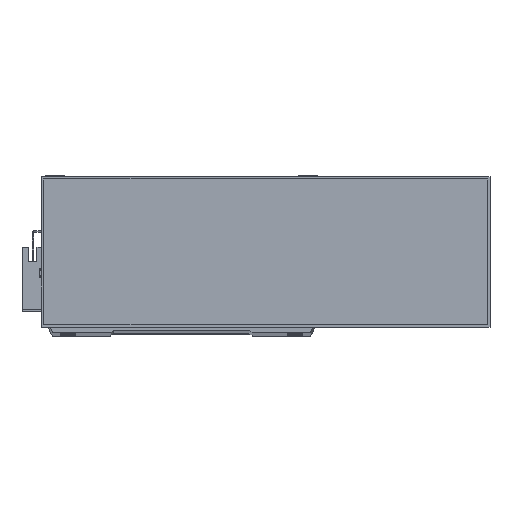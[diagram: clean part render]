
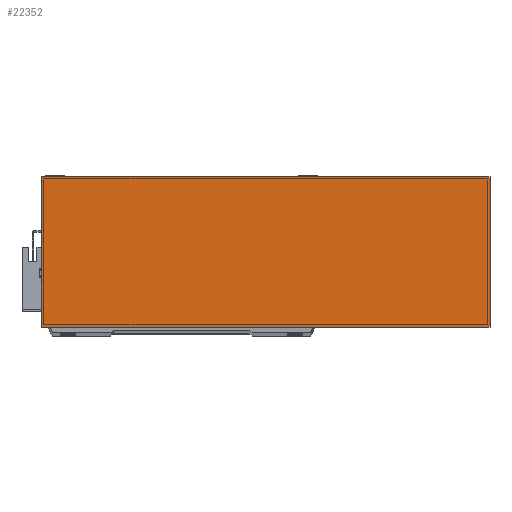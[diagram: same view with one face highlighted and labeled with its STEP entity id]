
A CAD part, top view. The second image highlights one B-rep face of the part: STEP entity #22352.
In plain terms, the highlighted planar face has unit normal (0, 0, 1).
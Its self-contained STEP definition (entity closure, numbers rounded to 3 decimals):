
#916 = CARTESIAN_POINT ( 'NONE',  ( 0., 0., 50. ) ) ;
#1520 = CARTESIAN_POINT ( 'NONE',  ( 277., 93., 50. ) ) ;
#3180 = DIRECTION ( 'NONE',  ( 1., 0., 0. ) ) ;
#3797 = FACE_OUTER_BOUND ( 'NONE', #22103, .T. ) ;
#5744 = EDGE_CURVE ( 'NONE', #6061, #21718, #21702, .T. ) ;
#6061 = VERTEX_POINT ( 'NONE', #1520 ) ;
#6570 = VECTOR ( 'NONE', #20665, 1000. ) ;
#7180 = CARTESIAN_POINT ( 'NONE',  ( 277., 0., 50. ) ) ;
#7397 = ORIENTED_EDGE ( 'NONE', *, *, #22029, .T. ) ;
#7539 = EDGE_CURVE ( 'NONE', #21718, #8761, #14851, .T. ) ;
#8761 = VERTEX_POINT ( 'NONE', #16097 ) ;
#8913 = VECTOR ( 'NONE', #24902, 1000. ) ;
#9015 = DIRECTION ( 'NONE',  ( -1., 0., 0. ) ) ;
#9229 = CARTESIAN_POINT ( 'NONE',  ( 0., 0., 50. ) ) ;
#11155 = DIRECTION ( 'NONE',  ( 0., 0., -1. ) ) ;
#11808 = ORIENTED_EDGE ( 'NONE', *, *, #5744, .T. ) ;
#12398 = AXIS2_PLACEMENT_3D ( 'NONE', #20201, #11155, #9015 ) ;
#14851 = LINE ( 'NONE', #9229, #8913 ) ;
#15784 = ORIENTED_EDGE ( 'NONE', *, *, #23413, .T. ) ;
#15891 = ORIENTED_EDGE ( 'NONE', *, *, #7539, .T. ) ;
#16097 = CARTESIAN_POINT ( 'NONE',  ( 0., 0., 50. ) ) ;
#17069 = CARTESIAN_POINT ( 'NONE',  ( 0., 93., 50. ) ) ;
#17194 = DIRECTION ( 'NONE',  ( -1., 0., 0. ) ) ;
#17776 = CARTESIAN_POINT ( 'NONE',  ( 0., 93., 50. ) ) ;
#17872 = VECTOR ( 'NONE', #3180, 1000. ) ;
#17921 = PLANE ( 'NONE',  #12398 ) ;
#18442 = VERTEX_POINT ( 'NONE', #25191 ) ;
#18520 = LINE ( 'NONE', #7180, #6570 ) ;
#18564 = LINE ( 'NONE', #916, #17872 ) ;
#20201 = CARTESIAN_POINT ( 'NONE',  ( 0., 0., 50. ) ) ;
#20665 = DIRECTION ( 'NONE',  ( 0., 1., 0. ) ) ;
#21702 = LINE ( 'NONE', #17069, #26924 ) ;
#21718 = VERTEX_POINT ( 'NONE', #17776 ) ;
#22029 = EDGE_CURVE ( 'NONE', #8761, #18442, #18564, .T. ) ;
#22103 = EDGE_LOOP ( 'NONE', ( #15891, #7397, #15784, #11808 ) ) ;
#22352 = ADVANCED_FACE ( 'NONE', ( #3797 ), #17921, .F. ) ;
#23413 = EDGE_CURVE ( 'NONE', #18442, #6061, #18520, .T. ) ;
#24902 = DIRECTION ( 'NONE',  ( 0., -1., 0. ) ) ;
#25191 = CARTESIAN_POINT ( 'NONE',  ( 277., 0., 50. ) ) ;
#26924 = VECTOR ( 'NONE', #17194, 1000. ) ;
